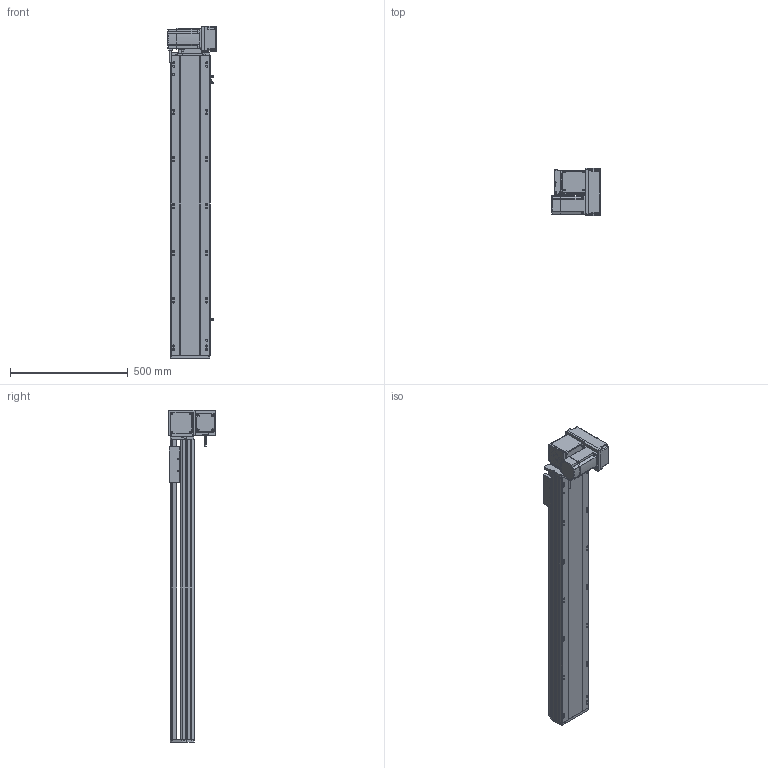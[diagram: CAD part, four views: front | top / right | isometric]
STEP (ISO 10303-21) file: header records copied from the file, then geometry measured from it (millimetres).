
FILE_DESCRIPTION (( 'STEP AP214' ), '1' );
FILE_NAME ('RTB17S-XX-1000-RM-M75-C4.STEP', '2025-12-12T02:05:23', ( '' ), ( '' ), 'SwSTEP 2.0', 'SolidWorks 2018', '' );
FILE_SCHEMA (( 'AUTOMOTIVE_DESIGN' ));
Length unit declared in the file: millimetre
Products named in the file (15): RTB17S-L-007奻裔^RTB17S-XX-XX-RM-M75-C4; RTB17S-賑釱^RTB17S-XX-XX-RM-M75-C4; RTB17S-RM-々湍釱蚾饜-750W^RTB17S-XX-XX-RM-M75-C4; RTB22S-GY-008-M75--萇儂啣^RTB17S-RM-々湍釱蚾饜-750W_RTB17S-XX-XX-RM-M75-C4; RTB22S-GY-005P^RTB17S-RM-々湍釱蚾饜-750W_RTB17S-XX-XX-RM-M75-C4; RTH13-BL-012覜茼え俋离^RTB17S-賑釱_RTB17S-XX-XX-RM-M75-C4; EE672^RTB17S-XX-XX-RM-M75-C4; RTB22S-GY-017P^RTB17S-RM-々湍釱蚾饜-750W_RTB17S-XX-XX-RM-M75-C4; RTB17-R-011菁釱^RTB17S-XX-XX-RM-M75-C4; RTB17S-L-001-耜醱啣^RTB17S-XX-XX-RM-M75-C4; RTB22S-GY-018P^RTB17S-RM-々湍釱蚾饜-750W_RTB17S-XX-XX-RM-M75-C4; RTB17S-XX-1000-RM-M75-C4; RTB17S-L-014-T20-P75--々湍釱^RTB17S-RM-々湍釱蚾饜-750W_RTB17S-XX-XX-RM-M75-C4; 750W萇儂^RTB17S-XX-XX-RM-M75-C4; RTB17S-L-004-賑釱^RTB17S-賑釱_RTB17S-XX-XX-RM-M75-C4
Assembly tree (17 placements, depth 3):
  RTB17S-XX-1000-RM-M75-C4
    RTB17-R-011菁釱^RTB17S-XX-XX-RM-M75-C4
    EE672^RTB17S-XX-XX-RM-M75-C4  x3
    RTB17S-L-001-耜醱啣^RTB17S-XX-XX-RM-M75-C4
    RTB17S-賑釱^RTB17S-XX-XX-RM-M75-C4
      RTB17S-L-004-賑釱^RTB17S-賑釱_RTB17S-XX-XX-RM-M75-C4
      RTH13-BL-012覜茼え俋离^RTB17S-賑釱_RTB17S-XX-XX-RM-M75-C4
    RTB17S-L-007奻裔^RTB17S-XX-XX-RM-M75-C4
    750W萇儂^RTB17S-XX-XX-RM-M75-C4
    RTB17S-RM-々湍釱蚾饜-750W^RTB17S-XX-XX-RM-M75-C4
      RTB17S-L-014-T20-P75--々湍釱^RTB17S-RM-々湍釱蚾饜-750W_RTB17S-XX-XX-RM-M75-C4
      RTB22S-GY-005P^RTB17S-RM-々湍釱蚾饜-750W_RTB17S-XX-XX-RM-M75-C4
      RTB22S-GY-017P^RTB17S-RM-々湍釱蚾饜-750W_RTB17S-XX-XX-RM-M75-C4  x2
      RTB22S-GY-008-M75--萇儂啣^RTB17S-RM-々湍釱蚾饜-750W_RTB17S-XX-XX-RM-M75-C4
      RTB22S-GY-018P^RTB17S-RM-々湍釱蚾饜-750W_RTB17S-XX-XX-RM-M75-C4
Bounding box: 207.4 x 200 x 1407.5 mm (x, y, z)
Volume: 12203760.2 mm3; surface area: 2070019.7 mm2
Topology: 17 solids, 17 shells, 2089 faces, 5782 edges, 3734 vertices
Faces by surface type: plane 970, cylinder 703, bspline 294, cone 110, sphere 8, torus 4
Entity records: 58102 total; most frequent: CARTESIAN_POINT 17046, ORIENTED_EDGE 8408, DIRECTION 7862, EDGE_CURVE 4204, AXIS2_PLACEMENT_3D 2754, VERTEX_POINT 2738, VECTOR 2354, LINE 2354
